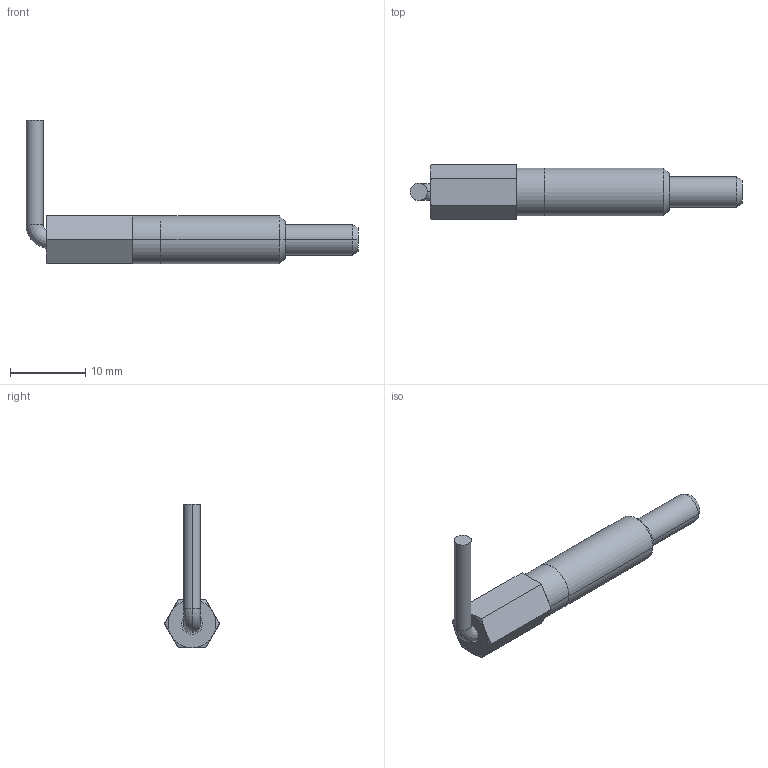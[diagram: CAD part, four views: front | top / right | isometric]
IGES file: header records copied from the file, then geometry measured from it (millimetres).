
Start section:  PTC IGES file: frn250-part.igs
Global section: file name: frn250-part.igs; native system: Pro/ENGINEER by Parametric Technology Corporation; preprocessor: 2002350; author: chant; organization: Unknown; date: 070614.111202; units: inch
Bounding box: 44.07 x 7.33 x 19.05 mm (x, y, z)
Surface area: 1589.5 mm2 (no closed solid volume)
Topology: 0 solids, 0 shells, 45 faces, 267 edges, 331 vertices
Faces by surface type: revolution 26, bspline 19
